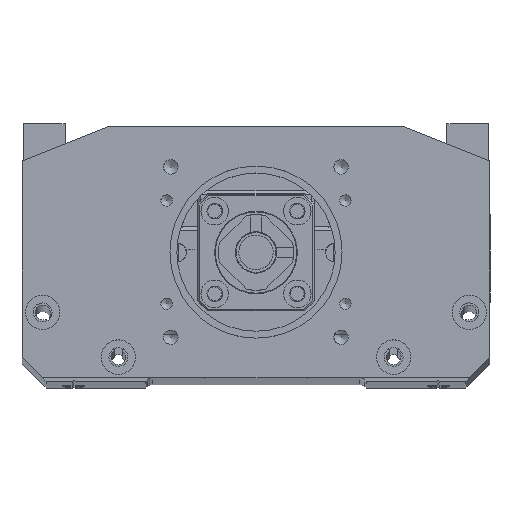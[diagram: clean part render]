
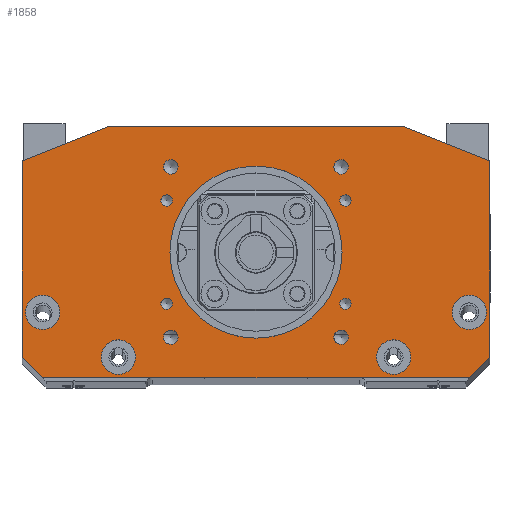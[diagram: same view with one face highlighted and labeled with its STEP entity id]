
A CAD part, top view. The second image highlights one B-rep face of the part: STEP entity #1858.
In plain terms, the highlighted planar face has unit normal (0, 0, 1).
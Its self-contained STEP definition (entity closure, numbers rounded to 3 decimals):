
#396=FACE_BOUND('',#3698,.T.);
#397=FACE_BOUND('',#3699,.T.);
#398=FACE_BOUND('',#3700,.T.);
#399=FACE_BOUND('',#3701,.T.);
#400=FACE_BOUND('',#3702,.T.);
#401=FACE_BOUND('',#3703,.T.);
#402=FACE_BOUND('',#3704,.T.);
#403=FACE_BOUND('',#3705,.T.);
#404=FACE_BOUND('',#3706,.T.);
#405=FACE_BOUND('',#3707,.T.);
#406=FACE_BOUND('',#3708,.T.);
#407=FACE_BOUND('',#3709,.T.);
#408=FACE_BOUND('',#3710,.T.);
#409=FACE_BOUND('',#3711,.T.);
#1858=ADVANCED_FACE('9',(#396,#397,#398,#399,#400,#401,#402,#403,#404,#405,
#406,#407,#408,#409),#2528,.T.);
#2528=PLANE('',#15617);
#3698=EDGE_LOOP('',(#8203));
#3699=EDGE_LOOP('',(#8204));
#3700=EDGE_LOOP('',(#8205));
#3701=EDGE_LOOP('',(#8206));
#3702=EDGE_LOOP('',(#8207));
#3703=EDGE_LOOP('',(#8208));
#3704=EDGE_LOOP('',(#8209));
#3705=EDGE_LOOP('',(#8210));
#3706=EDGE_LOOP('',(#8211));
#3707=EDGE_LOOP('',(#8212));
#3708=EDGE_LOOP('',(#8213));
#3709=EDGE_LOOP('',(#8214));
#3710=EDGE_LOOP('',(#8215));
#3711=EDGE_LOOP('',(#8216,#8217,#8218,#8219,#8220,#8221,#8222,#8223));
#4800=LINE('',#21944,#5815);
#4824=LINE('',#21989,#5839);
#4837=LINE('',#22017,#5852);
#4849=LINE('',#22042,#5864);
#4862=LINE('',#22067,#5877);
#5135=LINE('',#24507,#6150);
#5136=LINE('',#24509,#6151);
#5137=LINE('',#24510,#6152);
#5815=VECTOR('',#17286,1.);
#5839=VECTOR('',#17318,1.);
#5852=VECTOR('',#17341,1.);
#5864=VECTOR('',#17363,1.);
#5877=VECTOR('',#17384,1.);
#6150=VECTOR('',#18519,1.);
#6151=VECTOR('',#18522,1.);
#6152=VECTOR('',#18523,1.);
#8203=ORIENTED_EDGE('',*,*,#13178,.F.);
#8204=ORIENTED_EDGE('',*,*,#13180,.F.);
#8205=ORIENTED_EDGE('',*,*,#13182,.F.);
#8206=ORIENTED_EDGE('',*,*,#13184,.F.);
#8207=ORIENTED_EDGE('',*,*,#13186,.F.);
#8208=ORIENTED_EDGE('',*,*,#13188,.F.);
#8209=ORIENTED_EDGE('',*,*,#13190,.F.);
#8210=ORIENTED_EDGE('',*,*,#13192,.F.);
#8211=ORIENTED_EDGE('',*,*,#13194,.F.);
#8212=ORIENTED_EDGE('',*,*,#13196,.F.);
#8213=ORIENTED_EDGE('',*,*,#13200,.F.);
#8214=ORIENTED_EDGE('',*,*,#13204,.F.);
#8215=ORIENTED_EDGE('',*,*,#13208,.F.);
#8216=ORIENTED_EDGE('',*,*,#12538,.F.);
#8217=ORIENTED_EDGE('',*,*,#13217,.T.);
#8218=ORIENTED_EDGE('',*,*,#13216,.F.);
#8219=ORIENTED_EDGE('',*,*,#13218,.T.);
#8220=ORIENTED_EDGE('',*,*,#12608,.F.);
#8221=ORIENTED_EDGE('',*,*,#12593,.T.);
#8222=ORIENTED_EDGE('',*,*,#12579,.F.);
#8223=ORIENTED_EDGE('',*,*,#12564,.T.);
#11010=VERTEX_POINT('',#21943);
#11011=VERTEX_POINT('',#21945);
#11028=VERTEX_POINT('',#21990);
#11038=VERTEX_POINT('',#22018);
#11046=VERTEX_POINT('',#22043);
#11054=VERTEX_POINT('',#22068);
#11428=VERTEX_POINT('',#24402);
#11431=VERTEX_POINT('',#24409);
#11434=VERTEX_POINT('',#24416);
#11437=VERTEX_POINT('',#24423);
#11440=VERTEX_POINT('',#24430);
#11443=VERTEX_POINT('',#24437);
#11446=VERTEX_POINT('',#24444);
#11449=VERTEX_POINT('',#24451);
#11452=VERTEX_POINT('',#24458);
#11454=VERTEX_POINT('',#24463);
#11457=VERTEX_POINT('',#24472);
#11460=VERTEX_POINT('',#24481);
#11463=VERTEX_POINT('',#24490);
#11467=VERTEX_POINT('',#24502);
#11469=VERTEX_POINT('',#24506);
#12538=EDGE_CURVE('',#11010,#11011,#4800,.T.);
#12564=EDGE_CURVE('',#11028,#11011,#4824,.T.);
#12579=EDGE_CURVE('',#11028,#11038,#4837,.T.);
#12593=EDGE_CURVE('',#11046,#11038,#4849,.T.);
#12608=EDGE_CURVE('',#11046,#11054,#4862,.T.);
#13178=EDGE_CURVE('',#11428,#11428,#14516,.T.);
#13180=EDGE_CURVE('',#11431,#11431,#14518,.T.);
#13182=EDGE_CURVE('',#11434,#11434,#14520,.T.);
#13184=EDGE_CURVE('',#11437,#11437,#14522,.T.);
#13186=EDGE_CURVE('',#11440,#11440,#14524,.T.);
#13188=EDGE_CURVE('',#11443,#11443,#14526,.T.);
#13190=EDGE_CURVE('',#11446,#11446,#14528,.T.);
#13192=EDGE_CURVE('',#11449,#11449,#14530,.T.);
#13194=EDGE_CURVE('',#11452,#11452,#14532,.T.);
#13196=EDGE_CURVE('',#11454,#11454,#14534,.T.);
#13200=EDGE_CURVE('',#11457,#11457,#14538,.T.);
#13204=EDGE_CURVE('',#11460,#11460,#14542,.T.);
#13208=EDGE_CURVE('',#11463,#11463,#14546,.T.);
#13216=EDGE_CURVE('',#11469,#11467,#5135,.T.);
#13217=EDGE_CURVE('',#11010,#11467,#5136,.T.);
#13218=EDGE_CURVE('',#11469,#11054,#5137,.T.);
#14516=CIRCLE('',#15555,1.65);
#14518=CIRCLE('',#15559,1.65);
#14520=CIRCLE('',#15563,1.65);
#14522=CIRCLE('',#15567,1.65);
#14524=CIRCLE('',#15571,2.1);
#14526=CIRCLE('',#15575,2.1);
#14528=CIRCLE('',#15579,2.1);
#14530=CIRCLE('',#15583,2.1);
#14532=CIRCLE('',#15587,25.);
#14534=CIRCLE('',#15590,5.);
#14538=CIRCLE('',#15596,5.);
#14542=CIRCLE('',#15602,5.);
#14546=CIRCLE('',#15608,5.);
#15555=AXIS2_PLACEMENT_3D('',#24401,#18394,#18395);
#15559=AXIS2_PLACEMENT_3D('',#24408,#18402,#18403);
#15563=AXIS2_PLACEMENT_3D('',#24415,#18410,#18411);
#15567=AXIS2_PLACEMENT_3D('',#24422,#18418,#18419);
#15571=AXIS2_PLACEMENT_3D('',#24429,#18426,#18427);
#15575=AXIS2_PLACEMENT_3D('',#24436,#18434,#18435);
#15579=AXIS2_PLACEMENT_3D('',#24443,#18442,#18443);
#15583=AXIS2_PLACEMENT_3D('',#24450,#18450,#18451);
#15587=AXIS2_PLACEMENT_3D('',#24457,#18458,#18459);
#15590=AXIS2_PLACEMENT_3D('',#24462,#18464,#18465);
#15596=AXIS2_PLACEMENT_3D('',#24471,#18476,#18477);
#15602=AXIS2_PLACEMENT_3D('',#24480,#18488,#18489);
#15608=AXIS2_PLACEMENT_3D('',#24489,#18500,#18501);
#15617=AXIS2_PLACEMENT_3D('',#24511,#18524,#18525);
#17286=DIRECTION('',(0.,-1.,0.));
#17318=DIRECTION('',(0.707,0.707,0.));
#17341=DIRECTION('',(-1.,0.,0.));
#17363=DIRECTION('',(0.707,-0.707,0.));
#17384=DIRECTION('',(0.,1.,0.));
#18394=DIRECTION('',(0.,0.,1.));
#18395=DIRECTION('',(1.,0.,0.));
#18402=DIRECTION('',(0.,0.,1.));
#18403=DIRECTION('',(1.,0.,0.));
#18410=DIRECTION('',(0.,0.,1.));
#18411=DIRECTION('',(1.,0.,0.));
#18418=DIRECTION('',(0.,0.,1.));
#18419=DIRECTION('',(1.,0.,0.));
#18426=DIRECTION('',(0.,0.,1.));
#18427=DIRECTION('',(1.,0.,0.));
#18434=DIRECTION('',(0.,0.,1.));
#18435=DIRECTION('',(1.,0.,0.));
#18442=DIRECTION('',(0.,0.,1.));
#18443=DIRECTION('',(1.,0.,0.));
#18450=DIRECTION('',(0.,0.,1.));
#18451=DIRECTION('',(1.,0.,0.));
#18458=DIRECTION('',(0.,0.,1.));
#18459=DIRECTION('',(1.,0.,0.));
#18464=DIRECTION('',(0.,0.,1.));
#18465=DIRECTION('',(1.,0.,0.));
#18476=DIRECTION('',(0.,0.,1.));
#18477=DIRECTION('',(1.,0.,0.));
#18488=DIRECTION('',(0.,0.,1.));
#18489=DIRECTION('',(1.,0.,0.));
#18500=DIRECTION('',(0.,0.,1.));
#18501=DIRECTION('',(1.,0.,0.));
#18519=DIRECTION('',(1.,0.,0.));
#18522=DIRECTION('',(-0.928,0.371,0.));
#18523=DIRECTION('',(-0.928,-0.371,0.));
#18524=DIRECTION('',(0.,0.,1.));
#18525=DIRECTION('',(-1.,0.,0.));
#21943=CARTESIAN_POINT('',(68.,63.,180.));
#21944=CARTESIAN_POINT('',(68.,0.,180.));
#21945=CARTESIAN_POINT('',(68.,6.,180.));
#21989=CARTESIAN_POINT('',(49.25,-12.75,180.));
#21990=CARTESIAN_POINT('',(62.,0.,180.));
#22017=CARTESIAN_POINT('',(68.,0.,180.));
#22018=CARTESIAN_POINT('',(-62.,0.,180.));
#22042=CARTESIAN_POINT('',(-49.25,-12.75,180.));
#22043=CARTESIAN_POINT('',(-68.,6.,180.));
#22067=CARTESIAN_POINT('',(-68.,0.,180.));
#22068=CARTESIAN_POINT('',(-68.,63.,180.));
#24401=CARTESIAN_POINT('',(25.981,51.5,180.));
#24402=CARTESIAN_POINT('',(27.631,51.5,180.));
#24408=CARTESIAN_POINT('',(25.981,21.5,180.));
#24409=CARTESIAN_POINT('',(27.631,21.5,180.));
#24415=CARTESIAN_POINT('',(-25.981,21.5,180.));
#24416=CARTESIAN_POINT('',(-24.331,21.5,180.));
#24422=CARTESIAN_POINT('',(-25.981,51.5,180.));
#24423=CARTESIAN_POINT('',(-24.331,51.5,180.));
#24429=CARTESIAN_POINT('',(-24.749,61.249,180.));
#24430=CARTESIAN_POINT('',(-22.649,61.249,180.));
#24436=CARTESIAN_POINT('',(24.749,61.249,180.));
#24437=CARTESIAN_POINT('',(26.849,61.249,180.));
#24443=CARTESIAN_POINT('',(24.749,11.751,180.));
#24444=CARTESIAN_POINT('',(26.849,11.751,180.));
#24450=CARTESIAN_POINT('',(-24.749,11.751,180.));
#24451=CARTESIAN_POINT('',(-22.649,11.751,180.));
#24457=CARTESIAN_POINT('',(0.,36.5,180.));
#24458=CARTESIAN_POINT('',(25.,36.5,180.));
#24462=CARTESIAN_POINT('',(-62.,19.,180.));
#24463=CARTESIAN_POINT('',(-57.,19.,180.));
#24471=CARTESIAN_POINT('',(62.,19.,180.));
#24472=CARTESIAN_POINT('',(67.,19.,180.));
#24480=CARTESIAN_POINT('',(-40.,6.,180.));
#24481=CARTESIAN_POINT('',(-35.,6.,180.));
#24489=CARTESIAN_POINT('',(40.,6.,180.));
#24490=CARTESIAN_POINT('',(45.,6.,180.));
#24502=CARTESIAN_POINT('',(43.,73.,180.));
#24506=CARTESIAN_POINT('',(-43.,73.,180.));
#24507=CARTESIAN_POINT('',(68.,73.,180.));
#24509=CARTESIAN_POINT('',(18.517,82.793,180.));
#24510=CARTESIAN_POINT('',(-18.517,82.793,180.));
#24511=CARTESIAN_POINT('',(0.,36.5,180.));
